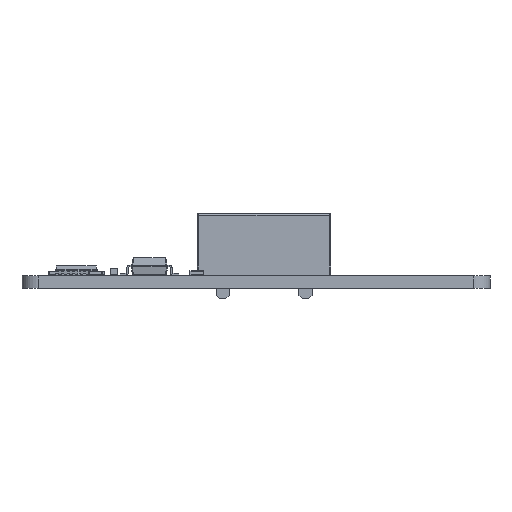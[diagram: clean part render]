
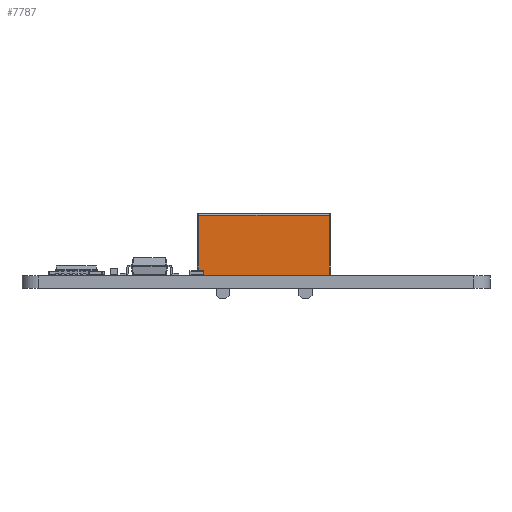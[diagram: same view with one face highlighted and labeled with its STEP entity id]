
A CAD part, left-side view. The second image highlights one B-rep face of the part: STEP entity #7787.
In plain terms, the highlighted planar face has unit normal (-1, 0, 0) as drawn and (0, -1, 0) by its records, which use the part's own axes.
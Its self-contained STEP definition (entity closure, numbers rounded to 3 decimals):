
#7194 = VERTEX_POINT('',#7195);
#7195 = CARTESIAN_POINT('',(-2.84,-5.06,0.));
#7202 = EDGE_CURVE('',#7194,#7203,#7205,.T.);
#7203 = VERTEX_POINT('',#7204);
#7204 = CARTESIAN_POINT('',(12.76,-5.06,0.));
#7205 = LINE('',#7206,#7207);
#7206 = CARTESIAN_POINT('',(-3.04,-5.06,0.));
#7207 = VECTOR('',#7208,1.);
#7208 = DIRECTION('',(1.,0.,0.));
#7449 = EDGE_CURVE('',#7203,#7450,#7452,.T.);
#7450 = VERTEX_POINT('',#7451);
#7451 = CARTESIAN_POINT('',(12.76,-5.06,7.17));
#7452 = LINE('',#7453,#7454);
#7453 = CARTESIAN_POINT('',(12.76,-5.06,0.));
#7454 = VECTOR('',#7455,1.);
#7455 = DIRECTION('',(0.,0.,1.));
#7787 = ADVANCED_FACE('',(#7788),#7806,.F.);
#7788 = FACE_BOUND('',#7789,.F.);
#7789 = EDGE_LOOP('',(#7790,#7791,#7792,#7800));
#7790 = ORIENTED_EDGE('',*,*,#7449,.F.);
#7791 = ORIENTED_EDGE('',*,*,#7202,.F.);
#7792 = ORIENTED_EDGE('',*,*,#7793,.T.);
#7793 = EDGE_CURVE('',#7194,#7794,#7796,.T.);
#7794 = VERTEX_POINT('',#7795);
#7795 = CARTESIAN_POINT('',(-2.84,-5.06,7.17));
#7796 = LINE('',#7797,#7798);
#7797 = CARTESIAN_POINT('',(-2.84,-5.06,0.));
#7798 = VECTOR('',#7799,1.);
#7799 = DIRECTION('',(0.,0.,1.));
#7800 = ORIENTED_EDGE('',*,*,#7801,.T.);
#7801 = EDGE_CURVE('',#7794,#7450,#7802,.T.);
#7802 = LINE('',#7803,#7804);
#7803 = CARTESIAN_POINT('',(-2.84,-5.06,7.17));
#7804 = VECTOR('',#7805,1.);
#7805 = DIRECTION('',(1.,0.,0.));
#7806 = PLANE('',#7807);
#7807 = AXIS2_PLACEMENT_3D('',#7808,#7809,#7810);
#7808 = CARTESIAN_POINT('',(-3.04,-5.06,0.));
#7809 = DIRECTION('',(0.,1.,0.));
#7810 = DIRECTION('',(1.,0.,0.));
